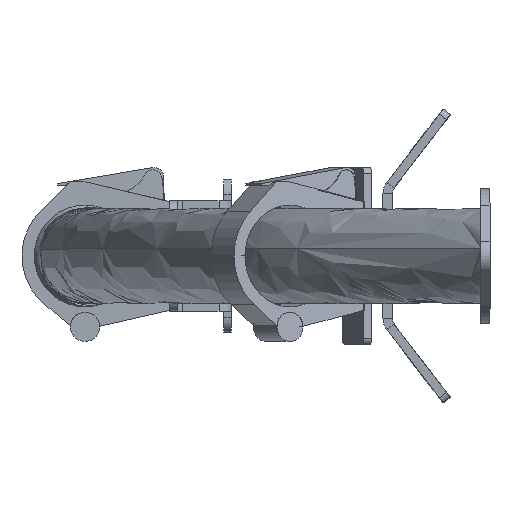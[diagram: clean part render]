
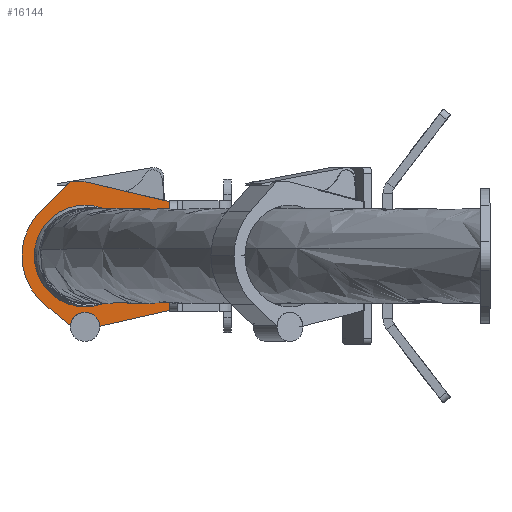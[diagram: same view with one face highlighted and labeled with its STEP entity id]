
A CAD part, left-side view. The second image highlights one B-rep face of the part: STEP entity #16144.
In plain terms, the highlighted planar face has unit normal (-1, 0, 0).
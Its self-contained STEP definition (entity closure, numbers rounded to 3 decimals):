
#560 = CARTESIAN_POINT ( 'NONE',  ( 1686., 342.496, 2844.31 ) ) ;
#748 = EDGE_CURVE ( 'NONE', #12329, #18561, #18401, .T. ) ;
#901 = EDGE_CURVE ( 'NONE', #10445, #18311, #13081, .T. ) ;
#956 = CARTESIAN_POINT ( 'NONE',  ( 1686., 361.466, 2844.686 ) ) ;
#1018 = EDGE_CURVE ( 'NONE', #17323, #23822, #3501, .T. ) ;
#1439 = DIRECTION ( 'NONE',  ( 0., 0., 1. ) ) ;
#1514 = DIRECTION ( 'NONE',  ( 0., 0., 1. ) ) ;
#1996 = CARTESIAN_POINT ( 'NONE',  ( 1686., 351.991, 2853.5 ) ) ;
#2303 = EDGE_CURVE ( 'NONE', #20278, #23822, #8495, .T. ) ;
#2315 = DIRECTION ( 'NONE',  ( -1., 0., 0. ) ) ;
#2326 = ORIENTED_EDGE ( 'NONE', *, *, #18785, .T. ) ;
#2425 = CARTESIAN_POINT ( 'NONE',  ( 1686., 256.99, 2916. ) ) ;
#2718 = ORIENTED_EDGE ( 'NONE', *, *, #7169, .T. ) ;
#3184 = FACE_BOUND ( 'NONE', #13422, .T. ) ;
#3415 = VERTEX_POINT ( 'NONE', #18177 ) ;
#3439 = ORIENTED_EDGE ( 'NONE', *, *, #27302, .T. ) ;
#3501 = CIRCLE ( 'NONE', #27397, 9.5 ) ;
#4396 = LINE ( 'NONE', #16506, #19218 ) ;
#4450 = VERTEX_POINT ( 'NONE', #560 ) ;
#4594 = CARTESIAN_POINT ( 'NONE',  ( 1686., 351.991, 2890. ) ) ;
#4633 = DIRECTION ( 'NONE',  ( 0., 0., -1. ) ) ;
#4855 = CARTESIAN_POINT ( 'NONE',  ( 1686., 351.991, 2938.2 ) ) ;
#4998 = VECTOR ( 'NONE', #18503, 1000. ) ;
#5129 = ORIENTED_EDGE ( 'NONE', *, *, #20415, .F. ) ;
#5231 = FACE_OUTER_BOUND ( 'NONE', #8609, .T. ) ;
#5531 = DIRECTION ( 'NONE',  ( 0., -0.975, 0.223 ) ) ;
#6017 = VECTOR ( 'NONE', #1439, 1000. ) ;
#6489 = DIRECTION ( 'NONE',  ( -1., 0., 0. ) ) ;
#6727 = DIRECTION ( 'NONE',  ( 0., 0., -1. ) ) ;
#6765 = ORIENTED_EDGE ( 'NONE', *, *, #12454, .T. ) ;
#7047 = CARTESIAN_POINT ( 'NONE',  ( 1686., 362.285, 2937.903 ) ) ;
#7056 = LINE ( 'NONE', #19584, #17598 ) ;
#7108 = ORIENTED_EDGE ( 'NONE', *, *, #27452, .T. ) ;
#7169 = EDGE_CURVE ( 'NONE', #23770, #19568, #11337, .T. ) ;
#7324 = CARTESIAN_POINT ( 'NONE',  ( 1686., 361.574, 2938.2 ) ) ;
#7430 = DIRECTION ( 'NONE',  ( -1., 0., 0. ) ) ;
#7542 = DIRECTION ( 'NONE',  ( -1., 0., 0. ) ) ;
#7714 = LINE ( 'NONE', #2425, #23738 ) ;
#7767 = ORIENTED_EDGE ( 'NONE', *, *, #15823, .T. ) ;
#7788 = EDGE_CURVE ( 'NONE', #3415, #12629, #7714, .T. ) ;
#8062 = CARTESIAN_POINT ( 'NONE',  ( 1686., 296.991, 2916. ) ) ;
#8495 = LINE ( 'NONE', #10118, #25138 ) ;
#8609 = EDGE_LOOP ( 'NONE', ( #25040, #21522, #11690, #6765, #2326, #14959, #5129, #27383, #7108, #7767, #13334, #2718, #3439, #20900 ) ) ;
#8734 = CARTESIAN_POINT ( 'NONE',  ( 1686., 256.99, 2864. ) ) ;
#8831 = CIRCLE ( 'NONE', #16199, 33. ) ;
#8833 = DIRECTION ( 'NONE',  ( 0., 1., 0. ) ) ;
#8846 = DIRECTION ( 'NONE',  ( 0., -1., 0. ) ) ;
#9184 = LINE ( 'NONE', #16872, #19717 ) ;
#10118 = CARTESIAN_POINT ( 'NONE',  ( 1686., 356.991, 2841. ) ) ;
#10445 = VERTEX_POINT ( 'NONE', #20315 ) ;
#10789 = CARTESIAN_POINT ( 'NONE',  ( 1686., 291.991, 2854. ) ) ;
#10920 = DIRECTION ( 'NONE',  ( 0., 1., 0. ) ) ;
#11294 = DIRECTION ( 'NONE',  ( -1., 0., 0. ) ) ;
#11337 = CIRCLE ( 'NONE', #19024, 1. ) ;
#11378 = EDGE_CURVE ( 'NONE', #25043, #23770, #15510, .T. ) ;
#11499 = CARTESIAN_POINT ( 'NONE',  ( 1686., 291.991, 2864. ) ) ;
#11589 = LINE ( 'NONE', #20592, #6017 ) ;
#11690 = ORIENTED_EDGE ( 'NONE', *, *, #14379, .F. ) ;
#12329 = VERTEX_POINT ( 'NONE', #19846 ) ;
#12454 = EDGE_CURVE ( 'NONE', #4450, #17882, #22366, .T. ) ;
#12629 = VERTEX_POINT ( 'NONE', #8062 ) ;
#12756 = VECTOR ( 'NONE', #8846, 1000. ) ;
#13081 = CIRCLE ( 'NONE', #20959, 33. ) ;
#13334 = ORIENTED_EDGE ( 'NONE', *, *, #11378, .T. ) ;
#13422 = EDGE_LOOP ( 'NONE', ( #22836, #23485 ) ) ;
#14379 = EDGE_CURVE ( 'NONE', #4450, #17323, #22345, .T. ) ;
#14959 = ORIENTED_EDGE ( 'NONE', *, *, #748, .T. ) ;
#15047 = CARTESIAN_POINT ( 'NONE',  ( 1686., 351.991, 2890. ) ) ;
#15468 = CARTESIAN_POINT ( 'NONE',  ( 1686., 351.991, 2923. ) ) ;
#15510 = LINE ( 'NONE', #16369, #4998 ) ;
#15823 = EDGE_CURVE ( 'NONE', #24444, #25043, #9184, .T. ) ;
#15973 = CARTESIAN_POINT ( 'NONE',  ( 1686., 356.991, 2841. ) ) ;
#16139 = EDGE_CURVE ( 'NONE', #18311, #10445, #8831, .T. ) ;
#16144 = ADVANCED_FACE ( 'NONE', ( #5231, #3184 ), #21307, .F. ) ;
#16199 = AXIS2_PLACEMENT_3D ( 'NONE', #4594, #19327, #6727 ) ;
#16369 = CARTESIAN_POINT ( 'NONE',  ( 1686., 361.574, 2938.2 ) ) ;
#16387 = CARTESIAN_POINT ( 'NONE',  ( 1686., 381.146, 2918.827 ) ) ;
#16506 = CARTESIAN_POINT ( 'NONE',  ( 1686., 296.991, 2854.7 ) ) ;
#16817 = VECTOR ( 'NONE', #5531, 1000. ) ;
#16872 = CARTESIAN_POINT ( 'NONE',  ( 1686., 351.991, 2938.2 ) ) ;
#17132 = AXIS2_PLACEMENT_3D ( 'NONE', #23814, #11294, #25878 ) ;
#17137 = LINE ( 'NONE', #10789, #26850 ) ;
#17181 = DIRECTION ( 'NONE',  ( 0., 0., -1. ) ) ;
#17323 = VERTEX_POINT ( 'NONE', #1996 ) ;
#17598 = VECTOR ( 'NONE', #21649, 1000. ) ;
#17882 = VERTEX_POINT ( 'NONE', #23697 ) ;
#18177 = CARTESIAN_POINT ( 'NONE',  ( 1686., 291.991, 2916. ) ) ;
#18311 = VERTEX_POINT ( 'NONE', #15468 ) ;
#18332 = DIRECTION ( 'NONE',  ( 0., -0.772, -0.636 ) ) ;
#18401 = LINE ( 'NONE', #8734, #12756 ) ;
#18503 = DIRECTION ( 'NONE',  ( 0., 1., 0. ) ) ;
#18561 = VERTEX_POINT ( 'NONE', #11499 ) ;
#18785 = EDGE_CURVE ( 'NONE', #17882, #12329, #11589, .T. ) ;
#18973 = EDGE_CURVE ( 'NONE', #23000, #20278, #20155, .T. ) ;
#18996 = DIRECTION ( 'NONE',  ( 0., 0.974, 0.228 ) ) ;
#19024 = AXIS2_PLACEMENT_3D ( 'NONE', #19077, #6489, #21159 ) ;
#19077 = CARTESIAN_POINT ( 'NONE',  ( 1686., 361.574, 2937.2 ) ) ;
#19218 = VECTOR ( 'NONE', #1514, 1000. ) ;
#19327 = DIRECTION ( 'NONE',  ( -1., 0., 0. ) ) ;
#19568 = VERTEX_POINT ( 'NONE', #7047 ) ;
#19584 = CARTESIAN_POINT ( 'NONE',  ( 1686., 381.146, 2918.827 ) ) ;
#19717 = VECTOR ( 'NONE', #18996, 1000. ) ;
#19846 = CARTESIAN_POINT ( 'NONE',  ( 1686., 296.991, 2864. ) ) ;
#20038 = CARTESIAN_POINT ( 'NONE',  ( 1686., 351.991, 2844. ) ) ;
#20140 = CARTESIAN_POINT ( 'NONE',  ( 1686., 351.991, 2844. ) ) ;
#20155 = CIRCLE ( 'NONE', #17132, 41. ) ;
#20278 = VERTEX_POINT ( 'NONE', #20732 ) ;
#20315 = CARTESIAN_POINT ( 'NONE',  ( 1686., 351.991, 2857. ) ) ;
#20415 = EDGE_CURVE ( 'NONE', #3415, #18561, #17137, .T. ) ;
#20442 = AXIS2_PLACEMENT_3D ( 'NONE', #23371, #21387, #8833 ) ;
#20592 = CARTESIAN_POINT ( 'NONE',  ( 1686., 296.991, 2854.7 ) ) ;
#20732 = CARTESIAN_POINT ( 'NONE',  ( 1686., 378.059, 2858.354 ) ) ;
#20900 = ORIENTED_EDGE ( 'NONE', *, *, #18973, .T. ) ;
#20959 = AXIS2_PLACEMENT_3D ( 'NONE', #15047, #2315, #17181 ) ;
#21159 = DIRECTION ( 'NONE',  ( 0., 0., -1. ) ) ;
#21307 = PLANE ( 'NONE',  #20442 ) ;
#21387 = DIRECTION ( 'NONE',  ( 1., 0., 0. ) ) ;
#21522 = ORIENTED_EDGE ( 'NONE', *, *, #1018, .F. ) ;
#21649 = DIRECTION ( 'NONE',  ( 0., 0.703, -0.711 ) ) ;
#22086 = DIRECTION ( 'NONE',  ( 0., 0., -1. ) ) ;
#22123 = AXIS2_PLACEMENT_3D ( 'NONE', #20140, #7542, #22201 ) ;
#22201 = DIRECTION ( 'NONE',  ( 0., 0., -1. ) ) ;
#22345 = CIRCLE ( 'NONE', #22123, 9.5 ) ;
#22366 = LINE ( 'NONE', #15973, #16817 ) ;
#22836 = ORIENTED_EDGE ( 'NONE', *, *, #16139, .F. ) ;
#23000 = VERTEX_POINT ( 'NONE', #16387 ) ;
#23371 = CARTESIAN_POINT ( 'NONE',  ( 1686., 256.99, 2854. ) ) ;
#23485 = ORIENTED_EDGE ( 'NONE', *, *, #901, .F. ) ;
#23697 = CARTESIAN_POINT ( 'NONE',  ( 1686., 296.991, 2854.7 ) ) ;
#23738 = VECTOR ( 'NONE', #10920, 1000. ) ;
#23770 = VERTEX_POINT ( 'NONE', #7324 ) ;
#23814 = CARTESIAN_POINT ( 'NONE',  ( 1686., 351.991, 2890. ) ) ;
#23822 = VERTEX_POINT ( 'NONE', #956 ) ;
#24444 = VERTEX_POINT ( 'NONE', #25716 ) ;
#25040 = ORIENTED_EDGE ( 'NONE', *, *, #2303, .T. ) ;
#25043 = VERTEX_POINT ( 'NONE', #4855 ) ;
#25138 = VECTOR ( 'NONE', #18332, 1000. ) ;
#25716 = CARTESIAN_POINT ( 'NONE',  ( 1686., 296.991, 2925.3 ) ) ;
#25878 = DIRECTION ( 'NONE',  ( 0., 0., -1. ) ) ;
#26850 = VECTOR ( 'NONE', #4633, 1000. ) ;
#27302 = EDGE_CURVE ( 'NONE', #19568, #23000, #7056, .T. ) ;
#27383 = ORIENTED_EDGE ( 'NONE', *, *, #7788, .T. ) ;
#27397 = AXIS2_PLACEMENT_3D ( 'NONE', #20038, #7430, #22086 ) ;
#27452 = EDGE_CURVE ( 'NONE', #12629, #24444, #4396, .T. ) ;
